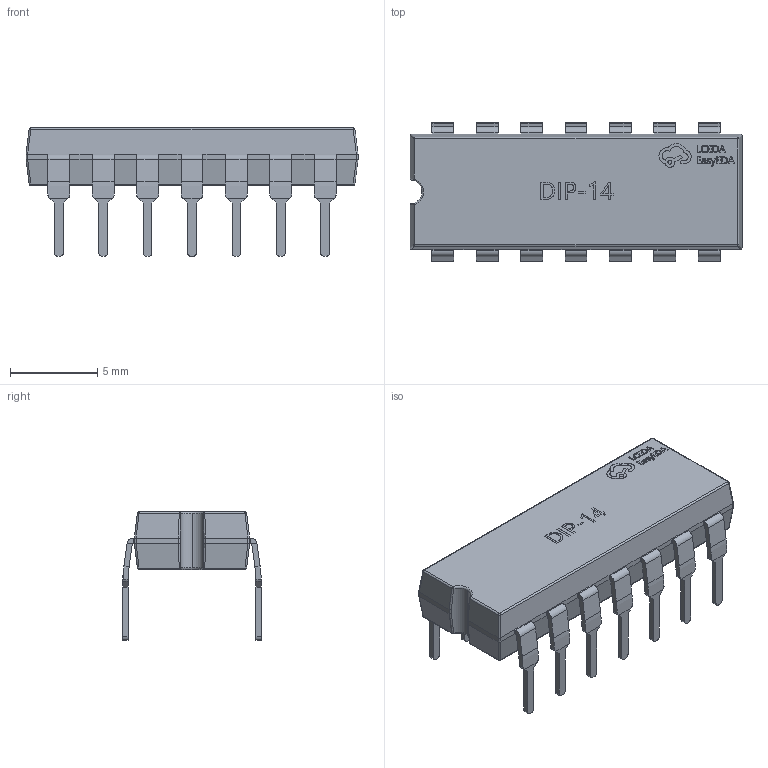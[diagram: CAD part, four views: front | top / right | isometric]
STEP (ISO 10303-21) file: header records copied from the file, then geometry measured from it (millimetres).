
FILE_DESCRIPTION (( 'STEP AP214' ), '1' );
FILE_NAME ('DIP-14_L19.0-W7.0-H3.5-LS7.62-P2.54.step', '2022-06-21T13:56:39', ( '' ), ( '' ), 'SwSTEP 2.0', 'SolidWorks 2020', '' );
FILE_SCHEMA (( 'AUTOMOTIVE_DESIGN' ));
Length unit declared in the file: millimetre
Products named in the file (1): DIP-14_L19.0-W7.0-H3.5-LS7.62-P2.54
Bounding box: 19 x 7.92 x 7.36 mm (x, y, z)
Volume: 418.3 mm3; surface area: 582.8 mm2
Topology: 1 solids, 1 shells, 796 faces, 2017 edges, 1258 vertices
Faces by surface type: plane 516, cylinder 138, bspline 128, sphere 12, torus 2
Entity records: 33596 total; most frequent: CARTESIAN_POINT 7479, ORIENTED_EDGE 4034, DIRECTION 3165, EDGE_CURVE 2017, LINE 1407, VECTOR 1407, VERTEX_POINT 1258, AXIS2_PLACEMENT_3D 879
